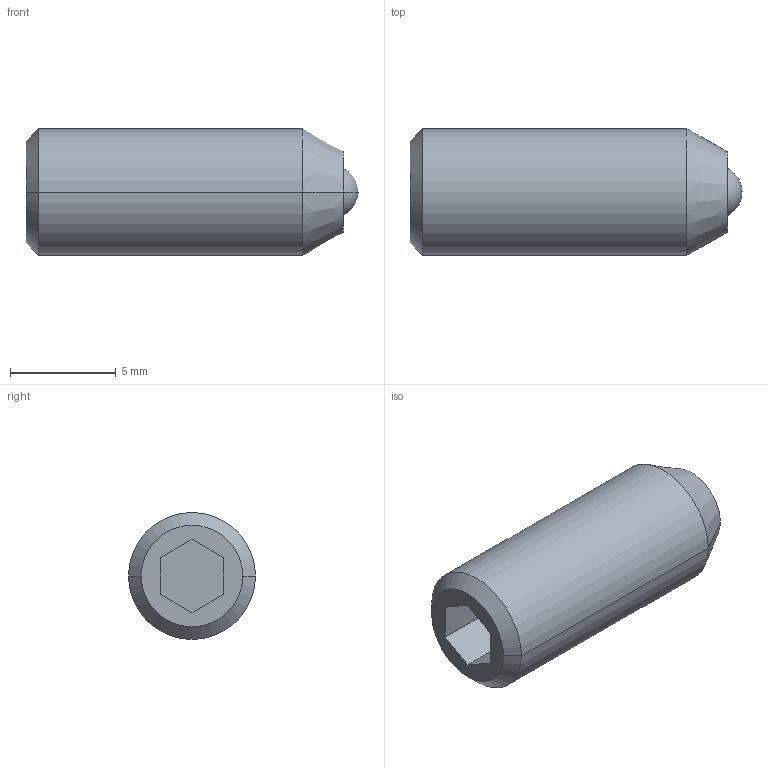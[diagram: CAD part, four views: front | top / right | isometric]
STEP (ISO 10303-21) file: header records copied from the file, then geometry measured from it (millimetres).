
FILE_DESCRIPTION (( 'STEP AP214' ), '1' );
FILE_NAME ('615.9-M6-KSN.step', '2022-12-09T10:30:55', ( '' ), ( '' ), 'SwSTEP 2.0', 'SolidWorks 2022', '' );
FILE_SCHEMA (( 'AUTOMOTIVE_DESIGN' ));
Length unit declared in the file: millimetre
Products named in the file (1): 615.9-M6-KSN
Bounding box: 15.7 x 6 x 6 mm (x, y, z)
Volume: 385.7 mm3; surface area: 341 mm2
Topology: 1 solids, 1 shells, 23 faces, 48 edges, 31 vertices
Faces by surface type: plane 11, cylinder 6, cone 4, sphere 2
Entity records: 685 total; most frequent: DIRECTION 116, CARTESIAN_POINT 103, ORIENTED_EDGE 96, EDGE_CURVE 48, AXIS2_PLACEMENT_3D 44, VERTEX_POINT 31, LINE 28, VECTOR 28
